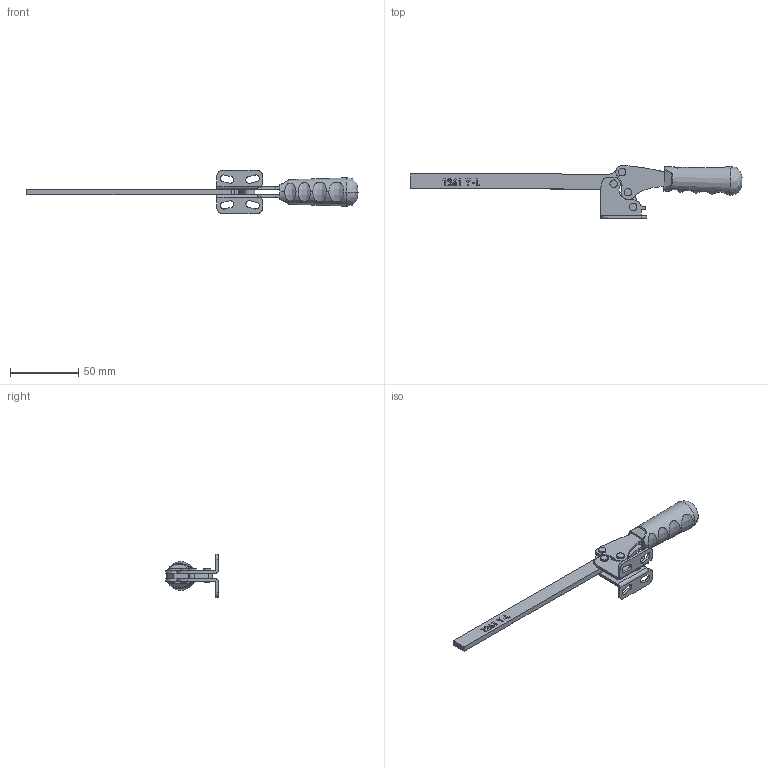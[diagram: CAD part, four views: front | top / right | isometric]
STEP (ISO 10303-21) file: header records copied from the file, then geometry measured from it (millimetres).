
FILE_DESCRIPTION (( 'STEP AP203' ), '1' );
FILE_NAME ('1261_Y_L.STEP', '2023-01-06T07:53:47', ( '' ), ( '' ), 'SwSTEP 2.0', 'SolidWorks 2023', '' );
FILE_SCHEMA (( 'CONFIG_CONTROL_DESIGN' ));
Length unit declared in the file: millimetre
Products named in the file (10): 1261_Y_L; 1261 Y-D Gövde; 1261_MAFSAL; 1261_HAREKET_KOLU_R01; Aynalama1261 Y-D Gövde; Aynalama1261_HAREKET_KOLU_R01; 1261_L3_LAMA; BAĞLANTILAR; 3_5x10_5_PERÇİN; C55_Yeni_Tutamak
Assembly tree (12 placements, depth 3):
  1261_Y_L
    1261 Y-D Gövde
    1261_HAREKET_KOLU_R01
    1261_MAFSAL
    C55_Yeni_Tutamak
    1261_L3_LAMA
    Aynalama1261 Y-D Gövde
    Aynalama1261_HAREKET_KOLU_R01
    BAĞLANTILAR
      3_5x10_5_PERÇİN  x4
Bounding box: 243.48 x 38.77 x 31.8 mm (x, y, z)
Volume: 28948.8 mm3; surface area: 21962.7 mm2
Topology: 11 solids, 11 shells, 658 faces, 1734 edges, 1130 vertices
Faces by surface type: plane 410, cylinder 175, bspline 71, cone 2
Entity records: 19082 total; most frequent: CARTESIAN_POINT 5733, ORIENTED_EDGE 2628, DIRECTION 2388, EDGE_CURVE 1314, VECTOR 914, LINE 914, VERTEX_POINT 866, AXIS2_PLACEMENT_3D 737
